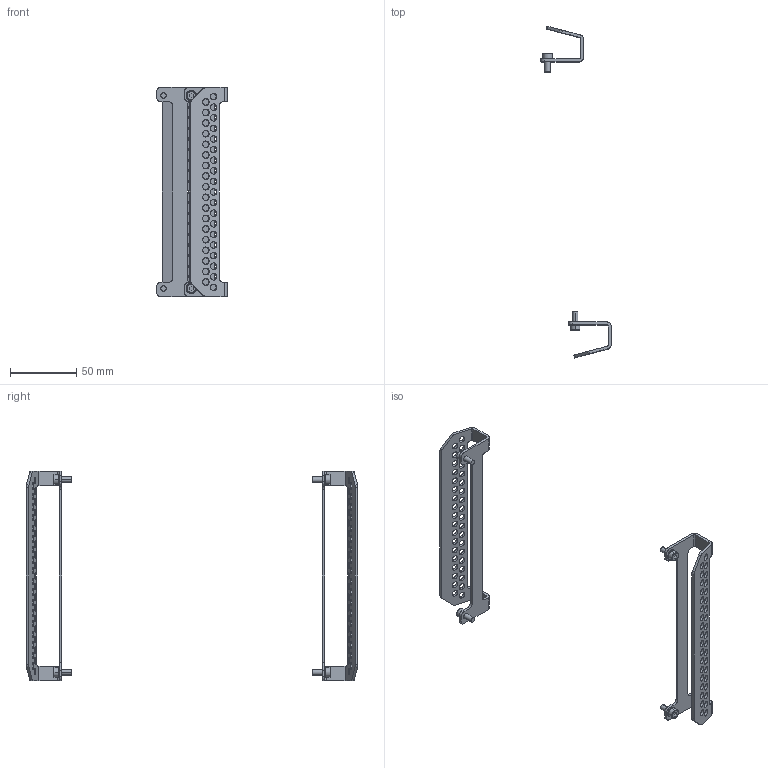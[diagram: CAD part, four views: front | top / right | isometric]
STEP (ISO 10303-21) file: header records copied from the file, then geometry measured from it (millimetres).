
FILE_DESCRIPTION((''),'2;1');
FILE_NAME('1_PMX_STRAIN_RELIEF_S_SW0001','2018-10-04T',('mellertr'),(''),'CREO PARAMETRIC BY PTC INC, 2017480','CREO PARAMETRIC BY PTC INC, 2017480','');
FILE_SCHEMA(('CONFIG_CONTROL_DESIGN'));
Length unit declared in the file: millimetre
Products named in the file (1): 1_PMX_STRAIN_RELIEF_S_SW0001
Bounding box: 53 x 250.34 x 158 mm (x, y, z)
Volume: 22324.7 mm3; surface area: 27927 mm2
Topology: 2 solids, 2 shells, 324 faces, 908 edges, 600 vertices
Faces by surface type: bspline 324
Entity records: 16629 total; most frequent: CARTESIAN_POINT 6700, ORIENTED_EDGE 1816, DIRECTION 1384, EDGE_CURVE 908, VERTEX_POINT 600, EDGE_LOOP 488, AXIS2_PLACEMENT_3D 476, CIRCLE 476
